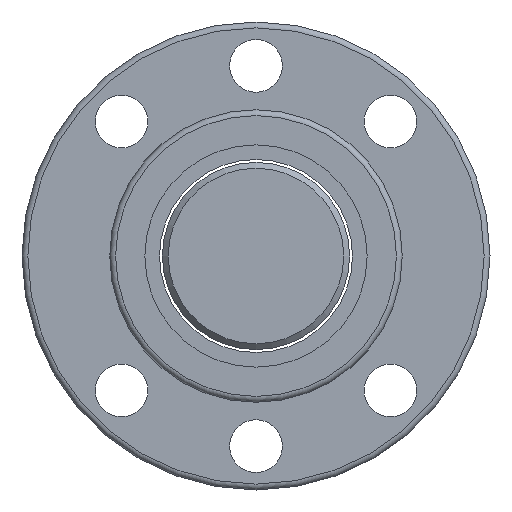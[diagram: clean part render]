
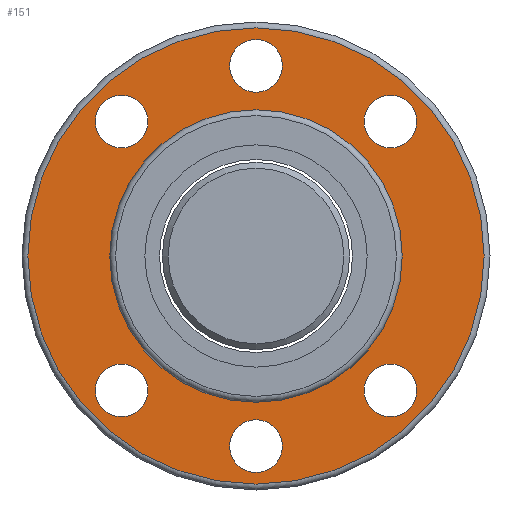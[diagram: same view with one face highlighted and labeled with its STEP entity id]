
A CAD part, left-side view. The second image highlights one B-rep face of the part: STEP entity #151.
In plain terms, the highlighted planar face has unit normal (-1, 0, 0).
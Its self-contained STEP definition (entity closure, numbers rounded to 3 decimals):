
#116=PLANE('',#553);
#127=FACE_OUTER_BOUND('',#292,.T.);
#151=ADVANCED_FACE('',(#216,#217,#218,#219,#220,#221,#222,#127),#116,.T.);
#216=FACE_BOUND('',#285,.T.);
#217=FACE_BOUND('',#286,.T.);
#218=FACE_BOUND('',#287,.T.);
#219=FACE_BOUND('',#288,.T.);
#220=FACE_BOUND('',#289,.T.);
#221=FACE_BOUND('',#290,.T.);
#222=FACE_BOUND('',#291,.T.);
#285=EDGE_LOOP('',(#359));
#286=EDGE_LOOP('',(#360));
#287=EDGE_LOOP('',(#361));
#288=EDGE_LOOP('',(#362));
#289=EDGE_LOOP('',(#363));
#290=EDGE_LOOP('',(#364));
#291=EDGE_LOOP('',(#365));
#292=EDGE_LOOP('',(#366));
#359=ORIENTED_EDGE('',*,*,#452,.F.);
#360=ORIENTED_EDGE('',*,*,#453,.F.);
#361=ORIENTED_EDGE('',*,*,#454,.F.);
#362=ORIENTED_EDGE('',*,*,#455,.F.);
#363=ORIENTED_EDGE('',*,*,#456,.F.);
#364=ORIENTED_EDGE('',*,*,#457,.F.);
#365=ORIENTED_EDGE('',*,*,#458,.T.);
#366=ORIENTED_EDGE('',*,*,#451,.F.);
#414=VERTEX_POINT('',#780);
#415=VERTEX_POINT('',#783);
#416=VERTEX_POINT('',#785);
#417=VERTEX_POINT('',#787);
#418=VERTEX_POINT('',#789);
#419=VERTEX_POINT('',#791);
#420=VERTEX_POINT('',#793);
#421=VERTEX_POINT('',#795);
#451=EDGE_CURVE('',#414,#414,#488,.T.);
#452=EDGE_CURVE('',#415,#415,#489,.T.);
#453=EDGE_CURVE('',#416,#416,#490,.T.);
#454=EDGE_CURVE('',#417,#417,#491,.T.);
#455=EDGE_CURVE('',#418,#418,#492,.T.);
#456=EDGE_CURVE('',#419,#419,#493,.T.);
#457=EDGE_CURVE('',#420,#420,#494,.T.);
#458=EDGE_CURVE('',#421,#421,#495,.T.);
#488=CIRCLE('',#544,39.);
#489=CIRCLE('',#546,4.5);
#490=CIRCLE('',#547,4.5);
#491=CIRCLE('',#548,4.5);
#492=CIRCLE('',#549,4.5);
#493=CIRCLE('',#550,4.5);
#494=CIRCLE('',#551,4.5);
#495=CIRCLE('',#552,25.);
#544=AXIS2_PLACEMENT_3D('',#779,#658,#659);
#546=AXIS2_PLACEMENT_3D('',#782,#662,#663);
#547=AXIS2_PLACEMENT_3D('',#784,#664,#665);
#548=AXIS2_PLACEMENT_3D('',#786,#666,#667);
#549=AXIS2_PLACEMENT_3D('',#788,#668,#669);
#550=AXIS2_PLACEMENT_3D('',#790,#670,#671);
#551=AXIS2_PLACEMENT_3D('',#792,#672,#673);
#552=AXIS2_PLACEMENT_3D('',#794,#674,#675);
#553=AXIS2_PLACEMENT_3D('',#796,#676,#677);
#658=DIRECTION('',(1.,0.,0.));
#659=DIRECTION('',(0.,0.,-1.));
#662=DIRECTION('',(-1.,0.,0.));
#663=DIRECTION('',(0.,0.,1.));
#664=DIRECTION('',(-1.,0.,0.));
#665=DIRECTION('',(0.,0.,1.));
#666=DIRECTION('',(-1.,0.,0.));
#667=DIRECTION('',(0.,0.,1.));
#668=DIRECTION('',(-1.,0.,0.));
#669=DIRECTION('',(0.,0.,1.));
#670=DIRECTION('',(-1.,0.,0.));
#671=DIRECTION('',(0.,0.,1.));
#672=DIRECTION('',(-1.,0.,0.));
#673=DIRECTION('',(0.,0.,1.));
#674=DIRECTION('',(1.,0.,0.));
#675=DIRECTION('',(0.,0.,-1.));
#676=DIRECTION('',(-1.,0.,0.));
#677=DIRECTION('',(0.,0.,1.));
#779=CARTESIAN_POINT('',(-27.,0.,0.));
#780=CARTESIAN_POINT('',(-27.,0.,-39.));
#782=CARTESIAN_POINT('',(-27.,0.,-32.5));
#783=CARTESIAN_POINT('',(-27.,0.,-28.));
#784=CARTESIAN_POINT('',(-27.,0.,32.5));
#785=CARTESIAN_POINT('',(-27.,0.,37.));
#786=CARTESIAN_POINT('',(-27.,22.981,-22.981));
#787=CARTESIAN_POINT('',(-27.,22.981,-18.481));
#788=CARTESIAN_POINT('',(-27.,-22.981,-22.981));
#789=CARTESIAN_POINT('',(-27.,-22.981,-18.481));
#790=CARTESIAN_POINT('',(-27.,-22.981,22.981));
#791=CARTESIAN_POINT('',(-27.,-22.981,27.481));
#792=CARTESIAN_POINT('',(-27.,22.981,22.981));
#793=CARTESIAN_POINT('',(-27.,22.981,27.481));
#794=CARTESIAN_POINT('',(-27.,0.,0.));
#795=CARTESIAN_POINT('',(-27.,0.,-25.));
#796=CARTESIAN_POINT('',(-27.,32.,0.));
